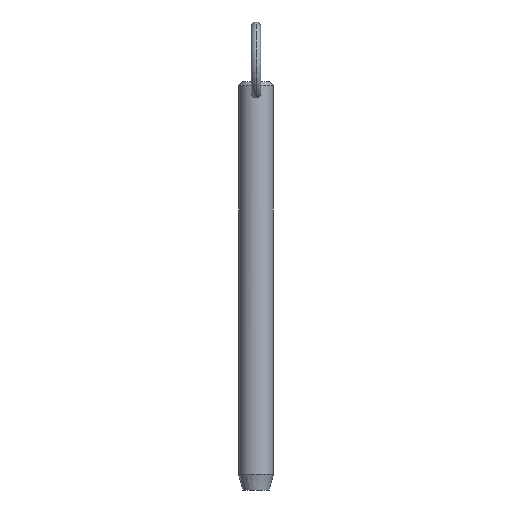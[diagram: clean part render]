
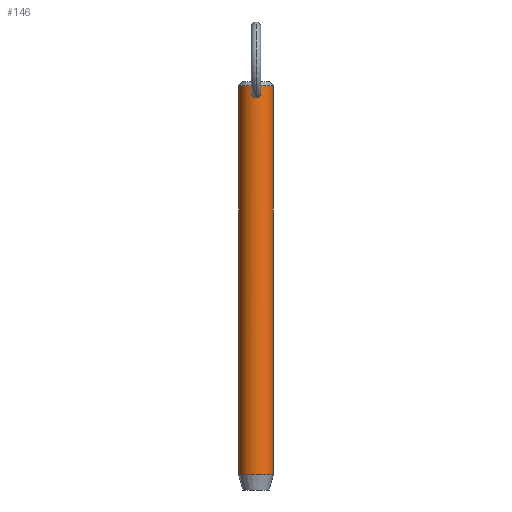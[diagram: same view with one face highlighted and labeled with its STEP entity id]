
A CAD part, front view. The second image highlights one B-rep face of the part: STEP entity #146.
In plain terms, the highlighted cylindrical face has radius 5.55 mm (diameter 11.1 mm), a partial arc.
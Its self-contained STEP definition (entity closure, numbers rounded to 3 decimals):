
#1 = EDGE_CURVE ( 'NONE', #209, #144, #298, .T. ) ;
#3 = CARTESIAN_POINT ( 'NONE',  ( 0., 0., 109.2 ) ) ;
#21 = ORIENTED_EDGE ( 'NONE', *, *, #395, .T. ) ;
#22 = CARTESIAN_POINT ( 'NONE',  ( -0.807, -5.492, 110.705 ) ) ;
#25 = CARTESIAN_POINT ( 'NONE',  ( -0.513, -5.527, 113.823 ) ) ;
#31 = CARTESIAN_POINT ( 'NONE',  ( 1.194, -5.422, 113.171 ) ) ;
#37 = ORIENTED_EDGE ( 'NONE', *, *, #420, .T. ) ;
#40 = VERTEX_POINT ( 'NONE', #488 ) ;
#47 = AXIS2_PLACEMENT_3D ( 'NONE', #357, #169, #355 ) ;
#59 = DIRECTION ( 'NONE',  ( 1., 0., 0. ) ) ;
#60 = CARTESIAN_POINT ( 'NONE',  ( -1.485, -5.348, 112.379 ) ) ;
#65 = CARTESIAN_POINT ( 'NONE',  ( -0.42, -5.535, 110.532 ) ) ;
#80 = CARTESIAN_POINT ( 'NONE',  ( 0.523, -5.526, 110.566 ) ) ;
#103 = CARTESIAN_POINT ( 'NONE',  ( -0.785, -5.497, 113.658 ) ) ;
#110 = CARTESIAN_POINT ( 'NONE',  ( 0., -5.55, 110.477 ) ) ;
#115 = CARTESIAN_POINT ( 'NONE',  ( -0.106, -5.55, 113.945 ) ) ;
#121 = CARTESIAN_POINT ( 'NONE',  ( 1.486, -5.347, 112.374 ) ) ;
#130 = CARTESIAN_POINT ( 'NONE',  ( 1.26, -5.407, 111.143 ) ) ;
#131 = AXIS2_PLACEMENT_3D ( 'NONE', #3, #371, #174 ) ;
#144 = VERTEX_POINT ( 'NONE', #282 ) ;
#146 = ADVANCED_FACE ( 'NONE', ( #263, #350 ), #463, .T. ) ;
#164 = CARTESIAN_POINT ( 'NONE',  ( 1.5, -5.343, 111.954 ) ) ;
#167 = CARTESIAN_POINT ( 'NONE',  ( 1.055, -5.449, 110.905 ) ) ;
#169 = DIRECTION ( 'NONE',  ( 0., 0., 1. ) ) ;
#170 = CARTESIAN_POINT ( 'NONE',  ( 0.213, -5.547, 110.488 ) ) ;
#174 = DIRECTION ( 'NONE',  ( -1., 0., 0. ) ) ;
#186 = CARTESIAN_POINT ( 'NONE',  ( -1.362, -5.381, 111.332 ) ) ;
#187 = DIRECTION ( 'NONE',  ( 0., 0., -1. ) ) ;
#192 = CARTESIAN_POINT ( 'NONE',  ( -1.503, -5.343, 112.059 ) ) ;
#194 = CARTESIAN_POINT ( 'NONE',  ( 0., 0., 114.25 ) ) ;
#201 = VECTOR ( 'NONE', #187, 1000. ) ;
#209 = VERTEX_POINT ( 'NONE', #502 ) ;
#212 = CARTESIAN_POINT ( 'NONE',  ( 1.477, -5.35, 111.744 ) ) ;
#215 = CARTESIAN_POINT ( 'NONE',  ( 1.363, -5.38, 111.334 ) ) ;
#217 = CARTESIAN_POINT ( 'NONE',  ( 0., -5.55, 110.477 ) ) ;
#223 = CARTESIAN_POINT ( 'NONE',  ( -1.455, -5.356, 111.636 ) ) ;
#228 = ORIENTED_EDGE ( 'NONE', *, *, #1, .T. ) ;
#230 = CARTESIAN_POINT ( 'NONE',  ( -1.477, -5.35, 111.742 ) ) ;
#231 = DIRECTION ( 'NONE',  ( 0., 0., -1. ) ) ;
#232 = CARTESIAN_POINT ( 'NONE',  ( -5.55, 0., 109.2 ) ) ;
#233 = B_SPLINE_CURVE_WITH_KNOTS ( 'NONE', 3,
 ( #394, #430, #239, #520, #311, #236, #274, #31, #349, #310, #121, #279, #164, #212, #452, #215, #130, #167, #486, #489, #247, #80, #358, #170, #448, #494 ),
 .UNSPECIFIED., .F., .F.,
 ( 4, 2, 2, 2, 2, 2, 2, 2, 2, 2, 2, 2, 4 ),
 ( 0.005, 0.005, 0.005, 0.006, 0.006, 0.007, 0.007, 0.008, 0.008, 0.009, 0.009, 0.009, 0.01 ),
 .UNSPECIFIED. ) ;
#236 = CARTESIAN_POINT ( 'NONE',  ( 0.786, -5.497, 113.657 ) ) ;
#239 = CARTESIAN_POINT ( 'NONE',  ( 0.214, -5.547, 113.928 ) ) ;
#241 = B_SPLINE_CURVE_WITH_KNOTS ( 'NONE', 3,
 ( #110, #303, #423, #65, #510, #301, #22, #344, #466, #381, #186, #223, #230, #512, #192, #60, #336, #342, #268, #384, #103, #25, #305, #343, #115, #422 ),
 .UNSPECIFIED., .F., .F.,
 ( 4, 2, 2, 2, 2, 2, 2, 2, 2, 2, 2, 2, 4 ),
 ( 0.01, 0.01, 0.01, 0.011, 0.011, 0.012, 0.012, 0.012, 0.013, 0.013, 0.014, 0.014, 0.015 ),
 .UNSPECIFIED. ) ;
#247 = CARTESIAN_POINT ( 'NONE',  ( 0.716, -5.504, 110.652 ) ) ;
#249 = ORIENTED_EDGE ( 'NONE', *, *, #278, .T. ) ;
#251 = CARTESIAN_POINT ( 'NONE',  ( -5.55, 0., 114.25 ) ) ;
#259 = DIRECTION ( 'NONE',  ( 0., 0., -1. ) ) ;
#263 = FACE_OUTER_BOUND ( 'NONE', #308, .T. ) ;
#268 = CARTESIAN_POINT ( 'NONE',  ( -1.195, -5.421, 113.171 ) ) ;
#272 = VERTEX_POINT ( 'NONE', #361 ) ;
#274 = CARTESIAN_POINT ( 'NONE',  ( 0.941, -5.471, 113.507 ) ) ;
#278 = EDGE_CURVE ( 'NONE', #40, #314, #359, .T. ) ;
#279 = CARTESIAN_POINT ( 'NONE',  ( 1.503, -5.343, 112.059 ) ) ;
#282 = CARTESIAN_POINT ( 'NONE',  ( 5.55, 0., -9.2 ) ) ;
#297 = LINE ( 'NONE', #232, #201 ) ;
#298 = CIRCLE ( 'NONE', #47, 5.55 ) ;
#301 = CARTESIAN_POINT ( 'NONE',  ( -0.716, -5.504, 110.652 ) ) ;
#303 = CARTESIAN_POINT ( 'NONE',  ( -0.107, -5.55, 110.477 ) ) ;
#305 = CARTESIAN_POINT ( 'NONE',  ( -0.416, -5.535, 113.867 ) ) ;
#308 = EDGE_LOOP ( 'NONE', ( #438, #249, #360, #228 ) ) ;
#310 = CARTESIAN_POINT ( 'NONE',  ( 1.44, -5.36, 112.586 ) ) ;
#311 = CARTESIAN_POINT ( 'NONE',  ( 0.515, -5.527, 113.822 ) ) ;
#313 = LINE ( 'NONE', #366, #397 ) ;
#314 = VERTEX_POINT ( 'NONE', #251 ) ;
#336 = CARTESIAN_POINT ( 'NONE',  ( -1.44, -5.36, 112.587 ) ) ;
#342 = CARTESIAN_POINT ( 'NONE',  ( -1.294, -5.398, 112.986 ) ) ;
#343 = CARTESIAN_POINT ( 'NONE',  ( -0.211, -5.547, 113.929 ) ) ;
#344 = CARTESIAN_POINT ( 'NONE',  ( -0.976, -5.464, 110.831 ) ) ;
#349 = CARTESIAN_POINT ( 'NONE',  ( 1.295, -5.397, 112.982 ) ) ;
#350 = FACE_BOUND ( 'NONE', #433, .T. ) ;
#355 = DIRECTION ( 'NONE',  ( -1., 0., 0. ) ) ;
#357 = CARTESIAN_POINT ( 'NONE',  ( 0., 0., -9.2 ) ) ;
#358 = CARTESIAN_POINT ( 'NONE',  ( 0.421, -5.535, 110.532 ) ) ;
#359 = CIRCLE ( 'NONE', #390, 5.55 ) ;
#360 = ORIENTED_EDGE ( 'NONE', *, *, #437, .T. ) ;
#361 = CARTESIAN_POINT ( 'NONE',  ( 0., -5.55, 113.945 ) ) ;
#366 = CARTESIAN_POINT ( 'NONE',  ( 5.55, 0., 109.2 ) ) ;
#371 = DIRECTION ( 'NONE',  ( 0., 0., -1. ) ) ;
#381 = CARTESIAN_POINT ( 'NONE',  ( -1.26, -5.407, 111.142 ) ) ;
#384 = CARTESIAN_POINT ( 'NONE',  ( -0.939, -5.472, 113.51 ) ) ;
#390 = AXIS2_PLACEMENT_3D ( 'NONE', #194, #231, #59 ) ;
#394 = CARTESIAN_POINT ( 'NONE',  ( 0., -5.55, 113.945 ) ) ;
#395 = EDGE_CURVE ( 'NONE', #444, #272, #241, .T. ) ;
#397 = VECTOR ( 'NONE', #259, 1000. ) ;
#420 = EDGE_CURVE ( 'NONE', #272, #444, #233, .T. ) ;
#422 = CARTESIAN_POINT ( 'NONE',  ( 0., -5.55, 113.945 ) ) ;
#423 = CARTESIAN_POINT ( 'NONE',  ( -0.212, -5.547, 110.488 ) ) ;
#430 = CARTESIAN_POINT ( 'NONE',  ( 0.106, -5.55, 113.945 ) ) ;
#433 = EDGE_LOOP ( 'NONE', ( #37, #21 ) ) ;
#437 = EDGE_CURVE ( 'NONE', #314, #209, #297, .T. ) ;
#438 = ORIENTED_EDGE ( 'NONE', *, *, #495, .F. ) ;
#444 = VERTEX_POINT ( 'NONE', #217 ) ;
#448 = CARTESIAN_POINT ( 'NONE',  ( 0.107, -5.55, 110.477 ) ) ;
#452 = CARTESIAN_POINT ( 'NONE',  ( 1.455, -5.356, 111.638 ) ) ;
#463 = CYLINDRICAL_SURFACE ( 'NONE', #131, 5.55 ) ;
#466 = CARTESIAN_POINT ( 'NONE',  ( -1.054, -5.449, 110.904 ) ) ;
#486 = CARTESIAN_POINT ( 'NONE',  ( 0.977, -5.464, 110.832 ) ) ;
#488 = CARTESIAN_POINT ( 'NONE',  ( 5.55, 0., 114.25 ) ) ;
#489 = CARTESIAN_POINT ( 'NONE',  ( 0.807, -5.492, 110.706 ) ) ;
#494 = CARTESIAN_POINT ( 'NONE',  ( 0., -5.55, 110.477 ) ) ;
#495 = EDGE_CURVE ( 'NONE', #40, #144, #313, .T. ) ;
#502 = CARTESIAN_POINT ( 'NONE',  ( -5.55, 0., -9.2 ) ) ;
#510 = CARTESIAN_POINT ( 'NONE',  ( -0.523, -5.526, 110.566 ) ) ;
#512 = CARTESIAN_POINT ( 'NONE',  ( -1.5, -5.343, 111.953 ) ) ;
#520 = CARTESIAN_POINT ( 'NONE',  ( 0.417, -5.535, 113.867 ) ) ;
